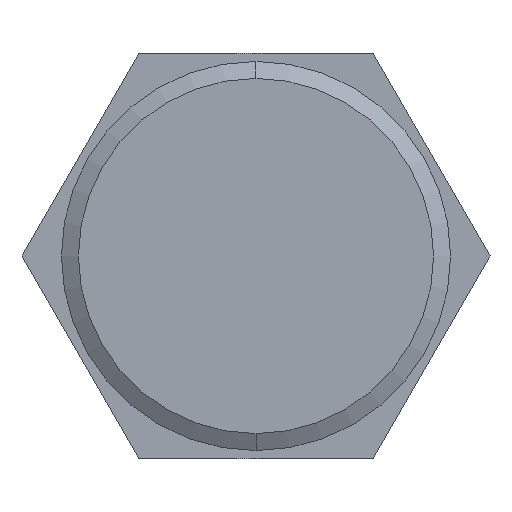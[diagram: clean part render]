
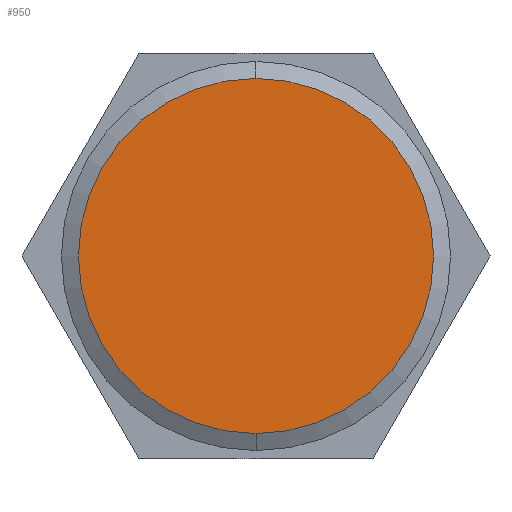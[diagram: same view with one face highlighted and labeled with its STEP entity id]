
A CAD part, left-side view. The second image highlights one B-rep face of the part: STEP entity #950.
In plain terms, the highlighted planar face has unit normal (-1, 0, 0).
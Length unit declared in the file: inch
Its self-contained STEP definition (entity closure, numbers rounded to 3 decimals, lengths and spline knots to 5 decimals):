
#3 = ORIENTED_EDGE ( 'NONE', *, *, #2708, .F. ) ;
#125 = ORIENTED_EDGE ( 'NONE', *, *, #1419, .F. ) ;
#320 = VERTEX_POINT ( 'NONE', #626 ) ;
#367 = EDGE_LOOP ( 'NONE', ( #125, #3 ) ) ;
#462 = VERTEX_POINT ( 'NONE', #618 ) ;
#618 = CARTESIAN_POINT ( 'NONE',  ( -5.83236, 0.03295, 0.71184 ) ) ;
#626 = CARTESIAN_POINT ( 'NONE',  ( -5.83236, 0.03295, -0.71184 ) ) ;
#854 = AXIS2_PLACEMENT_3D ( 'NONE', #3413, #3444, #3463 ) ;
#950 = ADVANCED_FACE ( 'NONE', ( #2043 ), #3428, .T. ) ;
#1044 = AXIS2_PLACEMENT_3D ( 'NONE', #1772, #1773, #1774 ) ;
#1131 = CIRCLE ( 'NONE', #1969, 0.71184 ) ;
#1419 = EDGE_CURVE ( 'NONE', #320, #462, #2477, .T. ) ;
#1772 = CARTESIAN_POINT ( 'NONE',  ( -5.83236, 0.03295, 0. ) ) ;
#1773 = DIRECTION ( 'NONE',  ( 1., 0., 0. ) ) ;
#1774 = DIRECTION ( 'NONE',  ( 0., 0., -1. ) ) ;
#1969 = AXIS2_PLACEMENT_3D ( 'NONE', #2972, #2973, #2974 ) ;
#2043 = FACE_OUTER_BOUND ( 'NONE', #367, .T. ) ;
#2477 = CIRCLE ( 'NONE', #1044, 0.71184 ) ;
#2708 = EDGE_CURVE ( 'NONE', #462, #320, #1131, .T. ) ;
#2972 = CARTESIAN_POINT ( 'NONE',  ( -5.83236, 0.03295, 0. ) ) ;
#2973 = DIRECTION ( 'NONE',  ( 1., 0., 0. ) ) ;
#2974 = DIRECTION ( 'NONE',  ( 0., 0., -1. ) ) ;
#3413 = CARTESIAN_POINT ( 'NONE',  ( -5.83236, 0.74479, 0. ) ) ;
#3428 = PLANE ( 'NONE',  #854 ) ;
#3444 = DIRECTION ( 'NONE',  ( -1., 0., 0. ) ) ;
#3463 = DIRECTION ( 'NONE',  ( 0., 0., 1. ) ) ;
